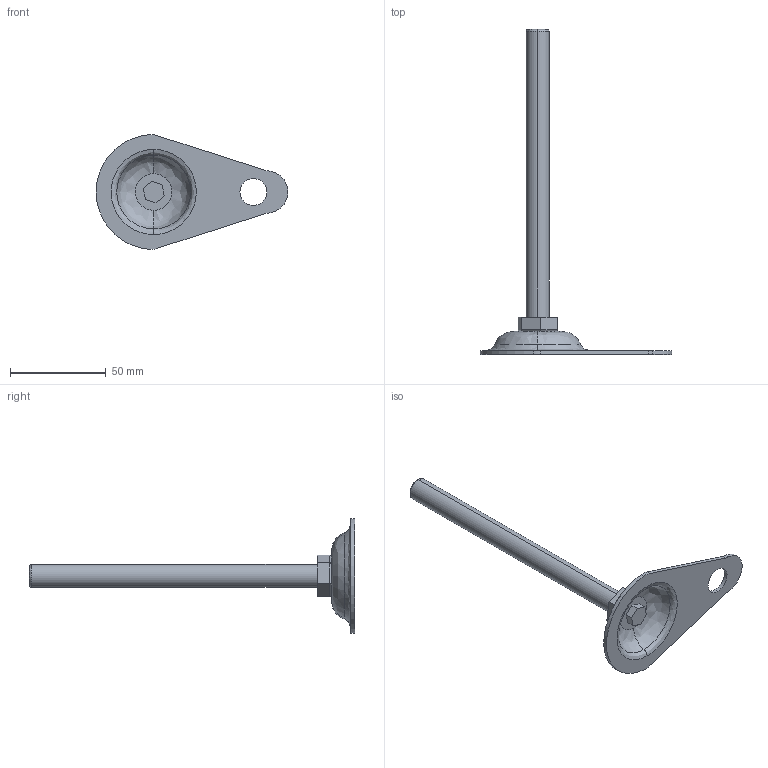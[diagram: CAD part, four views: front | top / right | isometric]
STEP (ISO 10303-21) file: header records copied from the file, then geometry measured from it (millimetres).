
FILE_DESCRIPTION (( 'STEP AP203' ), '1' );
FILE_NAME ('DY-K10012150.STEP', '2022-03-09T03:23:40', ( '' ), ( '' ), 'SwSTEP 2.0', 'SolidWorks 2017', '' );
FILE_SCHEMA (( 'CONFIG_CONTROL_DESIGN' ));
Length unit declared in the file: millimetre
Products named in the file (1): DY-K10012150
Bounding box: 99.96 x 169.5 x 59.88 mm (x, y, z)
Volume: 31753.6 mm3; surface area: 16856 mm2
Topology: 3 solids, 3 shells, 58 faces, 129 edges, 82 vertices
Faces by surface type: plane 25, cylinder 23, bspline 10
Entity records: 2176 total; most frequent: CARTESIAN_POINT 844, DIRECTION 259, ORIENTED_EDGE 258, EDGE_CURVE 129, AXIS2_PLACEMENT_3D 97, VERTEX_POINT 82, EDGE_LOOP 67, VECTOR 65
